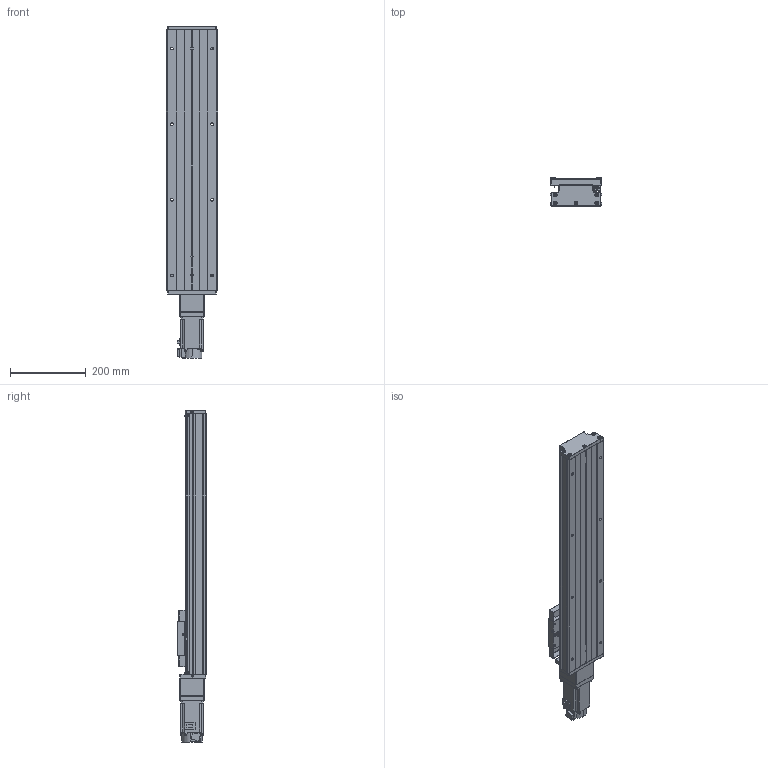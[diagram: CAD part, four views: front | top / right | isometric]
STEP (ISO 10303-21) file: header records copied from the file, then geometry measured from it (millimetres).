
FILE_DESCRIPTION (( 'STEP AP203' ), '1' );
FILE_NAME ('CTH130-500-BC-M40-C4.step', '2023-06-30T02:33:31', ( '微软用户' ), ( '微软中国' ), 'SwSTEP 2.0', 'SolidWorks 2020', '' );
FILE_SCHEMA (( 'CONFIG_CONTROL_DESIGN' ));
Length unit declared in the file: millimetre
Products named in the file (21): GTH14-001_500; CTHA60-017; す晦芛蹟隊 M3℅5; CTH130-002_GTH14-002; EE_SX911P_R; CTHA86-006-1_M40; GB T308.1-2013-6.35; CTHA60-016; CTHA86-013; GTH14-004; GBT 70.1-M3℅5; CTHA86-027-1; GTH14-005; GBT77-2000 M3×3; GBT 70.3-M3℅8; GB1155-6X6; CTH130-031; HG-KN43J-S100; GBT70.1 M5℅16; GBT 70.2-M3¡Á5_M3¡Á6; CTH130-500-BC-M40-C4
Assembly tree (59 placements, depth 2):
  CTH130-500-BC-M40-C4
    GTH14-001_500
    CTH130-002_GTH14-002
    GB T308.1-2013-6.35  x2
    GTH14-004
    GTH14-005
    GB1155-6X6  x2
    GBT70.1 M5℅16  x10
    CTHA60-017  x3
    EE_SX911P_R  x3
    CTHA60-016  x2
    GBT 70.1-M3℅5  x6
    GBT77-2000 M3×3  x6
    CTH130-031
    GBT 70.2-M3¡Á5_M3¡Á6  x8
    す晦芛蹟隊 M3℅5  x6
    CTHA86-006-1_M40
    CTHA86-013
    CTHA86-027-1
    GBT 70.3-M3℅8  x2
    HG-KN43J-S100
Bounding box: 135 x 76 x 878.7 mm (x, y, z)
Volume: 4246922.6 mm3; surface area: 689382.5 mm2
Topology: 62 solids, 62 shells, 2370 faces, 5657 edges, 3503 vertices
Faces by surface type: plane 1301, cylinder 618, cone 287, torus 120, sphere 24, bspline 20
Entity records: 43372 total; most frequent: CARTESIAN_POINT 9755, DIRECTION 6271, ORIENTED_EDGE 6214, EDGE_CURVE 3107, AXIS2_PLACEMENT_3D 2115, VECTOR 2041, LINE 2041, VERTEX_POINT 1963
